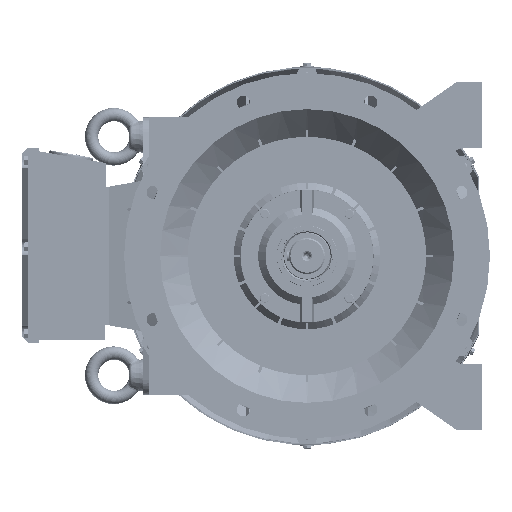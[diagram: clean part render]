
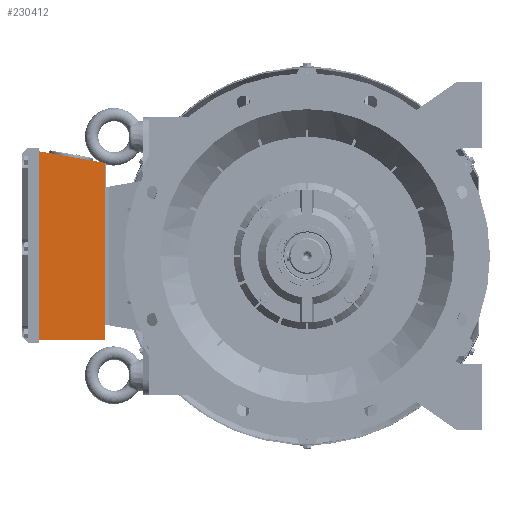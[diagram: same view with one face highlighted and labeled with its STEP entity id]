
A CAD part, left-side view. The second image highlights one B-rep face of the part: STEP entity #230412.
In plain terms, the highlighted planar face has unit normal (-1, 0, 0).
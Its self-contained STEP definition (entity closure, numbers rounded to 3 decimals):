
#538 = EDGE_CURVE ( 'NONE', #105782, #125549, #147733, .T. ) ;
#12602 = CARTESIAN_POINT ( 'NONE',  ( -139.172, 450.262, -125. ) ) ;
#13651 = CARTESIAN_POINT ( 'NONE',  ( -139.172, 328.262, 167.5 ) ) ;
#19763 = ORIENTED_EDGE ( 'NONE', *, *, #141229, .T. ) ;
#22604 = CARTESIAN_POINT ( 'NONE',  ( -139.172, 450.262, -151. ) ) ;
#23043 = EDGE_CURVE ( 'NONE', #118523, #90034, #251177, .T. ) ;
#45765 = VECTOR ( 'NONE', #171000, 1000. ) ;
#63116 = LINE ( 'NONE', #240908, #45765 ) ;
#72450 = VECTOR ( 'NONE', #121391, 1000. ) ;
#75382 = DIRECTION ( 'NONE',  ( 0., 0., 1. ) ) ;
#82077 = CARTESIAN_POINT ( 'NONE',  ( -139.172, 331.262, 168.029 ) ) ;
#89848 = ORIENTED_EDGE ( 'NONE', *, *, #99993, .T. ) ;
#90034 = VERTEX_POINT ( 'NONE', #110935 ) ;
#99454 = ORIENTED_EDGE ( 'NONE', *, *, #23043, .T. ) ;
#99993 = EDGE_CURVE ( 'NONE', #125549, #118523, #174223, .T. ) ;
#104216 = ORIENTED_EDGE ( 'NONE', *, *, #538, .T. ) ;
#105782 = VERTEX_POINT ( 'NONE', #82077 ) ;
#110935 = CARTESIAN_POINT ( 'NONE',  ( -139.172, 331.262, -151. ) ) ;
#113057 = VECTOR ( 'NONE', #197576, 1000. ) ;
#118523 = VERTEX_POINT ( 'NONE', #285678 ) ;
#121391 = DIRECTION ( 'NONE',  ( 0., -1., 0. ) ) ;
#125549 = VERTEX_POINT ( 'NONE', #145602 ) ;
#141229 = EDGE_CURVE ( 'NONE', #90034, #105782, #63116, .T. ) ;
#145267 = FACE_OUTER_BOUND ( 'NONE', #219578, .T. ) ;
#145602 = CARTESIAN_POINT ( 'NONE',  ( -139.172, 450.262, 189.012 ) ) ;
#147733 = LINE ( 'NONE', #13651, #178083 ) ;
#171000 = DIRECTION ( 'NONE',  ( 0., 0., 1. ) ) ;
#174223 = LINE ( 'NONE', #22604, #113057 ) ;
#178083 = VECTOR ( 'NONE', #239488, 1000. ) ;
#184147 = CARTESIAN_POINT ( 'NONE',  ( -139.172, 331.262, -151. ) ) ;
#197576 = DIRECTION ( 'NONE',  ( 0., 0., -1. ) ) ;
#209478 = DIRECTION ( 'NONE',  ( -1., 0., 0. ) ) ;
#219578 = EDGE_LOOP ( 'NONE', ( #19763, #104216, #89848, #99454 ) ) ;
#230412 = ADVANCED_FACE ( 'NONE', ( #145267 ), #234170, .T. ) ;
#234170 = PLANE ( 'NONE',  #279099 ) ;
#239488 = DIRECTION ( 'NONE',  ( 0., 0.985, 0.174 ) ) ;
#240908 = CARTESIAN_POINT ( 'NONE',  ( -139.172, 331.262, -151. ) ) ;
#251177 = LINE ( 'NONE', #184147, #72450 ) ;
#279099 = AXIS2_PLACEMENT_3D ( 'NONE', #12602, #209478, #75382 ) ;
#285678 = CARTESIAN_POINT ( 'NONE',  ( -139.172, 450.262, -151. ) ) ;
